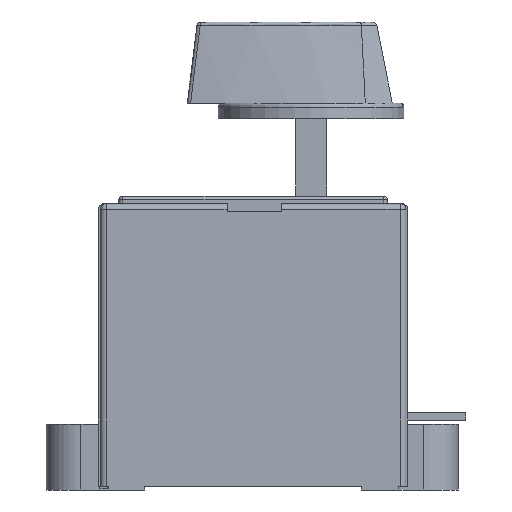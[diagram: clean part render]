
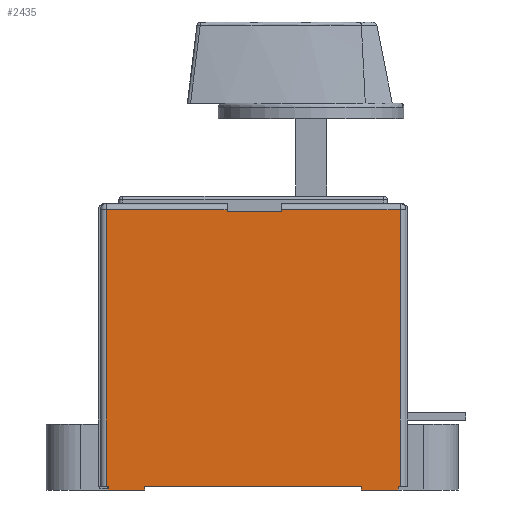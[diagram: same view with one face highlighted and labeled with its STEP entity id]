
A CAD part, left-side view. The second image highlights one B-rep face of the part: STEP entity #2435.
In plain terms, the highlighted planar face has unit normal (-1, 0, 0).
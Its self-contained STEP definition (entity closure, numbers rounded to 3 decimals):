
#250=PLANE('',#7353);
#673=LINE('',#10304,#1376);
#722=LINE('',#10421,#1425);
#724=LINE('',#10427,#1427);
#803=LINE('',#10776,#1506);
#820=LINE('',#10863,#1523);
#864=LINE('',#10977,#1567);
#869=LINE('',#10989,#1572);
#871=LINE('',#10992,#1574);
#877=LINE('',#11005,#1580);
#1043=LINE('',#11340,#1746);
#1049=LINE('',#11351,#1752);
#1050=LINE('',#11355,#1753);
#1051=LINE('',#11357,#1754);
#1052=LINE('',#11359,#1755);
#1053=LINE('',#11360,#1756);
#1054=LINE('',#11361,#1757);
#1376=VECTOR('',#8141,1.);
#1425=VECTOR('',#8226,1.);
#1427=VECTOR('',#8232,1.);
#1506=VECTOR('',#8549,1.);
#1523=VECTOR('',#8666,1.);
#1567=VECTOR('',#8784,1.);
#1572=VECTOR('',#8791,1.);
#1574=VECTOR('',#8795,1.);
#1580=VECTOR('',#8803,1.);
#1746=VECTOR('',#9099,1.);
#1752=VECTOR('',#9111,1.);
#1753=VECTOR('',#9116,1.);
#1754=VECTOR('',#9117,1.);
#1755=VECTOR('',#9118,1.);
#1756=VECTOR('',#9119,1.);
#1757=VECTOR('',#9120,1.);
#2435=ADVANCED_FACE('',(#2794),#250,.F.);
#2794=FACE_OUTER_BOUND('',#3210,.T.);
#3210=EDGE_LOOP('',(#4726,#4727,#4728,#4729,#4730,#4731,#4732,#4733,#4734,
#4735,#4736,#4737,#4738,#4739,#4740,#4741));
#4726=ORIENTED_EDGE('',*,*,#6693,.F.);
#4727=ORIENTED_EDGE('',*,*,#6439,.T.);
#4728=ORIENTED_EDGE('',*,*,#6241,.T.);
#4729=ORIENTED_EDGE('',*,*,#6185,.F.);
#4730=ORIENTED_EDGE('',*,*,#6244,.T.);
#4731=ORIENTED_EDGE('',*,*,#6396,.T.);
#4732=ORIENTED_EDGE('',*,*,#6695,.T.);
#4733=ORIENTED_EDGE('',*,*,#6696,.T.);
#4734=ORIENTED_EDGE('',*,*,#6697,.F.);
#4735=ORIENTED_EDGE('',*,*,#6495,.F.);
#4736=ORIENTED_EDGE('',*,*,#6500,.T.);
#4737=ORIENTED_EDGE('',*,*,#6698,.T.);
#4738=ORIENTED_EDGE('',*,*,#6508,.F.);
#4739=ORIENTED_EDGE('',*,*,#6502,.F.);
#4740=ORIENTED_EDGE('',*,*,#6687,.T.);
#4741=ORIENTED_EDGE('',*,*,#6699,.T.);
#5467=VERTEX_POINT('',#10303);
#5468=VERTEX_POINT('',#10305);
#5514=VERTEX_POINT('',#10422);
#5516=VERTEX_POINT('',#10428);
#5623=VERTEX_POINT('',#10771);
#5624=VERTEX_POINT('',#10775);
#5678=VERTEX_POINT('',#10978);
#5679=VERTEX_POINT('',#10979);
#5683=VERTEX_POINT('',#10988);
#5684=VERTEX_POINT('',#10993);
#5685=VERTEX_POINT('',#10994);
#5688=VERTEX_POINT('',#11002);
#5793=VERTEX_POINT('',#11339);
#5796=VERTEX_POINT('',#11352);
#5797=VERTEX_POINT('',#11356);
#5798=VERTEX_POINT('',#11358);
#6185=EDGE_CURVE('',#5467,#5468,#673,.T.);
#6241=EDGE_CURVE('',#5514,#5468,#722,.T.);
#6244=EDGE_CURVE('',#5467,#5516,#724,.T.);
#6396=EDGE_CURVE('',#5516,#5624,#803,.T.);
#6439=EDGE_CURVE('',#5623,#5514,#820,.T.);
#6495=EDGE_CURVE('',#5678,#5679,#864,.T.);
#6500=EDGE_CURVE('',#5678,#5683,#869,.T.);
#6502=EDGE_CURVE('',#5684,#5685,#871,.T.);
#6508=EDGE_CURVE('',#5685,#5688,#877,.T.);
#6687=EDGE_CURVE('',#5684,#5793,#1043,.T.);
#6693=EDGE_CURVE('',#5623,#5796,#1049,.T.);
#6695=EDGE_CURVE('',#5624,#5797,#1050,.T.);
#6696=EDGE_CURVE('',#5797,#5798,#1051,.T.);
#6697=EDGE_CURVE('',#5679,#5798,#1052,.T.);
#6698=EDGE_CURVE('',#5683,#5688,#1053,.T.);
#6699=EDGE_CURVE('',#5793,#5796,#1054,.T.);
#7353=AXIS2_PLACEMENT_3D('',#11362,#9121,#9122);
#8141=DIRECTION('',(0.,-1.,0.));
#8226=DIRECTION('',(0.,0.,-1.));
#8232=DIRECTION('',(0.,0.,1.));
#8549=DIRECTION('',(0.,1.,0.));
#8666=DIRECTION('',(0.,1.,0.));
#8784=DIRECTION('',(0.,1.,0.));
#8791=DIRECTION('',(0.,0.,1.));
#8795=DIRECTION('',(0.,1.,0.));
#8803=DIRECTION('',(0.,0.,1.));
#9099=DIRECTION('',(0.,0.,1.));
#9111=DIRECTION('',(0.,0.,-1.));
#9116=DIRECTION('',(0.,0.,-1.));
#9117=DIRECTION('',(0.,-1.,0.));
#9118=DIRECTION('',(0.,0.,1.));
#9119=DIRECTION('',(0.,-1.,0.));
#9120=DIRECTION('',(0.,-1.,0.));
#9121=DIRECTION('',(1.,0.,0.));
#9122=DIRECTION('',(0.,0.,-1.));
#10303=CARTESIAN_POINT('',(-69.,-17.985,67.));
#10304=CARTESIAN_POINT('',(-69.,12.765,67.));
#10305=CARTESIAN_POINT('',(-69.,-31.985,67.));
#10421=CARTESIAN_POINT('',(-69.,-31.985,69.1));
#10422=CARTESIAN_POINT('',(-69.,-31.985,67.6));
#10427=CARTESIAN_POINT('',(-69.,-17.985,69.1));
#10428=CARTESIAN_POINT('',(-69.,-17.985,67.6));
#10771=CARTESIAN_POINT('',(-69.,-62.735,67.6));
#10775=CARTESIAN_POINT('',(-69.,13.265,67.6));
#10776=CARTESIAN_POINT('',(-69.,13.265,67.6));
#10863=CARTESIAN_POINT('',(-69.,13.265,67.6));
#10977=CARTESIAN_POINT('',(-69.,3.265,-4.9));
#10978=CARTESIAN_POINT('',(-69.,3.265,-4.9));
#10979=CARTESIAN_POINT('',(-69.,12.765,-4.9));
#10988=CARTESIAN_POINT('',(-69.,3.265,-3.9));
#10989=CARTESIAN_POINT('',(-69.,3.265,-5.9));
#10992=CARTESIAN_POINT('',(-69.,-62.235,-4.9));
#10993=CARTESIAN_POINT('',(-69.,-62.235,-4.9));
#10994=CARTESIAN_POINT('',(-69.,-52.735,-4.9));
#11002=CARTESIAN_POINT('',(-69.,-52.735,-3.9));
#11005=CARTESIAN_POINT('',(-69.,-52.735,-5.9));
#11339=CARTESIAN_POINT('',(-69.,-62.235,-3.9));
#11340=CARTESIAN_POINT('',(-69.,-62.235,-5.9));
#11351=CARTESIAN_POINT('',(-69.,-62.735,69.1));
#11352=CARTESIAN_POINT('',(-69.,-62.735,-3.9));
#11355=CARTESIAN_POINT('',(-69.,13.265,69.1));
#11356=CARTESIAN_POINT('',(-69.,13.265,-3.9));
#11357=CARTESIAN_POINT('',(-69.,-62.235,-3.9));
#11358=CARTESIAN_POINT('',(-69.,12.765,-3.9));
#11359=CARTESIAN_POINT('',(-69.,12.765,-5.9));
#11360=CARTESIAN_POINT('',(-69.,-62.235,-3.9));
#11361=CARTESIAN_POINT('',(-69.,-62.235,-3.9));
#11362=CARTESIAN_POINT('',(-69.,-62.235,69.1));
